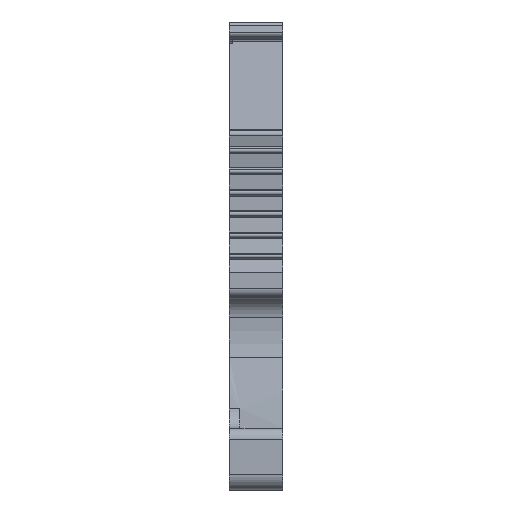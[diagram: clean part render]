
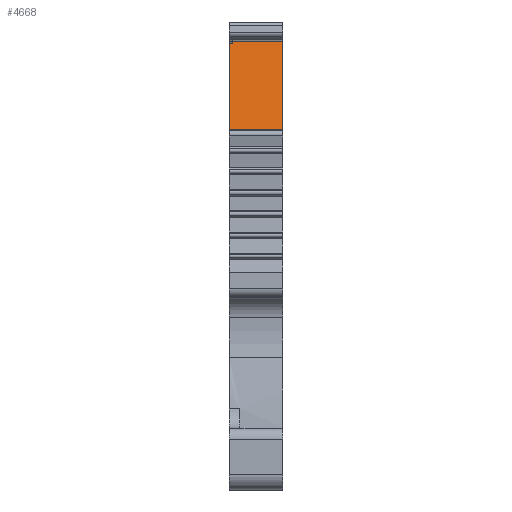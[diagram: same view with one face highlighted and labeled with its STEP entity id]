
A CAD part, front view. The second image highlights one B-rep face of the part: STEP entity #4668.
In plain terms, the highlighted planar face has unit normal (0, -0.985, 0.174).
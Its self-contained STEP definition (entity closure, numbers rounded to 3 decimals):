
#95 = CARTESIAN_POINT ( 'NONE',  ( 0.2, 2.838, 29.239 ) ) ;
#105 = LINE ( 'NONE', #8016, #5727 ) ;
#406 = VECTOR ( 'NONE', #3132, 1000. ) ;
#553 = VERTEX_POINT ( 'NONE', #9361 ) ;
#590 = CARTESIAN_POINT ( 'NONE',  ( 0.2, 1.775, 23.207 ) ) ;
#918 = VECTOR ( 'NONE', #10359, 1000. ) ;
#1020 = CARTESIAN_POINT ( 'NONE',  ( 0., 1.801, 23.355 ) ) ;
#1072 = VERTEX_POINT ( 'NONE', #7661 ) ;
#1149 = CARTESIAN_POINT ( 'NONE',  ( 0.2, 2.812, 29.092 ) ) ;
#1192 = VECTOR ( 'NONE', #6927, 1000. ) ;
#1222 = DIRECTION ( 'NONE',  ( 1., 0., 0. ) ) ;
#1829 = EDGE_CURVE ( 'NONE', #2422, #3369, #4870, .T. ) ;
#2021 = PLANE ( 'NONE',  #6771 ) ;
#2169 = ORIENTED_EDGE ( 'NONE', *, *, #3082, .F. ) ;
#2195 = VECTOR ( 'NONE', #1222, 1000. ) ;
#2422 = VERTEX_POINT ( 'NONE', #10730 ) ;
#2640 = ORIENTED_EDGE ( 'NONE', *, *, #9466, .T. ) ;
#2684 = CARTESIAN_POINT ( 'NONE',  ( 0.2, 2.838, 29.239 ) ) ;
#2690 = CARTESIAN_POINT ( 'NONE',  ( 0.2, 2.812, 29.092 ) ) ;
#2847 = EDGE_CURVE ( 'NONE', #9816, #8902, #3564, .T. ) ;
#2857 = EDGE_LOOP ( 'NONE', ( #2169, #6852, #6539, #4749, #4706, #4488, #2640, #5302 ) ) ;
#2953 = FACE_OUTER_BOUND ( 'NONE', #2857, .T. ) ;
#3071 = CARTESIAN_POINT ( 'NONE',  ( 1.75, 2.307, 26.223 ) ) ;
#3082 = EDGE_CURVE ( 'NONE', #6085, #9816, #7359, .T. ) ;
#3132 = DIRECTION ( 'NONE',  ( 0., -0.174, -0.985 ) ) ;
#3369 = VERTEX_POINT ( 'NONE', #1020 ) ;
#3389 = CARTESIAN_POINT ( 'NONE',  ( 0.2, 1.775, 23.207 ) ) ;
#3564 = LINE ( 'NONE', #2684, #5804 ) ;
#3927 = VERTEX_POINT ( 'NONE', #8213 ) ;
#4032 = EDGE_CURVE ( 'NONE', #3927, #3369, #9536, .T. ) ;
#4255 = LINE ( 'NONE', #3389, #1192 ) ;
#4488 = ORIENTED_EDGE ( 'NONE', *, *, #5218, .T. ) ;
#4668 = ADVANCED_FACE ( 'NONE', ( #2953 ), #2021, .T. ) ;
#4706 = ORIENTED_EDGE ( 'NONE', *, *, #11486, .F. ) ;
#4749 = ORIENTED_EDGE ( 'NONE', *, *, #4032, .F. ) ;
#4870 = LINE ( 'NONE', #11087, #406 ) ;
#5008 = LINE ( 'NONE', #590, #918 ) ;
#5218 = EDGE_CURVE ( 'NONE', #553, #1072, #4255, .T. ) ;
#5302 = ORIENTED_EDGE ( 'NONE', *, *, #2847, .F. ) ;
#5607 = CARTESIAN_POINT ( 'NONE',  ( 3.5, 2.838, 29.239 ) ) ;
#5727 = VECTOR ( 'NONE', #8825, 1000. ) ;
#5804 = VECTOR ( 'NONE', #6229, 1000. ) ;
#6085 = VERTEX_POINT ( 'NONE', #2690 ) ;
#6229 = DIRECTION ( 'NONE',  ( 1., 0., 0. ) ) ;
#6378 = DIRECTION ( 'NONE',  ( 0., 0.174, 0.985 ) ) ;
#6514 = LINE ( 'NONE', #8379, #2195 ) ;
#6539 = ORIENTED_EDGE ( 'NONE', *, *, #1829, .T. ) ;
#6748 = DIRECTION ( 'NONE',  ( -1., 0., 0. ) ) ;
#6771 = AXIS2_PLACEMENT_3D ( 'NONE', #3071, #7362, #10865 ) ;
#6852 = ORIENTED_EDGE ( 'NONE', *, *, #10660, .F. ) ;
#6927 = DIRECTION ( 'NONE',  ( 1., 0., 0. ) ) ;
#6942 = VECTOR ( 'NONE', #6748, 1000. ) ;
#7359 = LINE ( 'NONE', #1149, #8414 ) ;
#7362 = DIRECTION ( 'NONE',  ( 0., -0.985, 0.174 ) ) ;
#7661 = CARTESIAN_POINT ( 'NONE',  ( 3.5, 1.775, 23.207 ) ) ;
#7857 = CARTESIAN_POINT ( 'NONE',  ( 0.2, 1.801, 23.355 ) ) ;
#8016 = CARTESIAN_POINT ( 'NONE',  ( 3.5, 1.775, 23.207 ) ) ;
#8213 = CARTESIAN_POINT ( 'NONE',  ( 0.2, 1.801, 23.355 ) ) ;
#8379 = CARTESIAN_POINT ( 'NONE',  ( 0., 2.812, 29.092 ) ) ;
#8414 = VECTOR ( 'NONE', #6378, 1000. ) ;
#8825 = DIRECTION ( 'NONE',  ( 0., 0.174, 0.985 ) ) ;
#8902 = VERTEX_POINT ( 'NONE', #5607 ) ;
#9361 = CARTESIAN_POINT ( 'NONE',  ( 0.2, 1.775, 23.207 ) ) ;
#9466 = EDGE_CURVE ( 'NONE', #1072, #8902, #105, .T. ) ;
#9536 = LINE ( 'NONE', #7857, #6942 ) ;
#9816 = VERTEX_POINT ( 'NONE', #95 ) ;
#10359 = DIRECTION ( 'NONE',  ( 0., 0.174, 0.985 ) ) ;
#10660 = EDGE_CURVE ( 'NONE', #2422, #6085, #6514, .T. ) ;
#10730 = CARTESIAN_POINT ( 'NONE',  ( 0., 2.812, 29.092 ) ) ;
#10865 = DIRECTION ( 'NONE',  ( -1., 0., 0. ) ) ;
#11087 = CARTESIAN_POINT ( 'NONE',  ( 0., 2.812, 29.092 ) ) ;
#11486 = EDGE_CURVE ( 'NONE', #553, #3927, #5008, .T. ) ;
